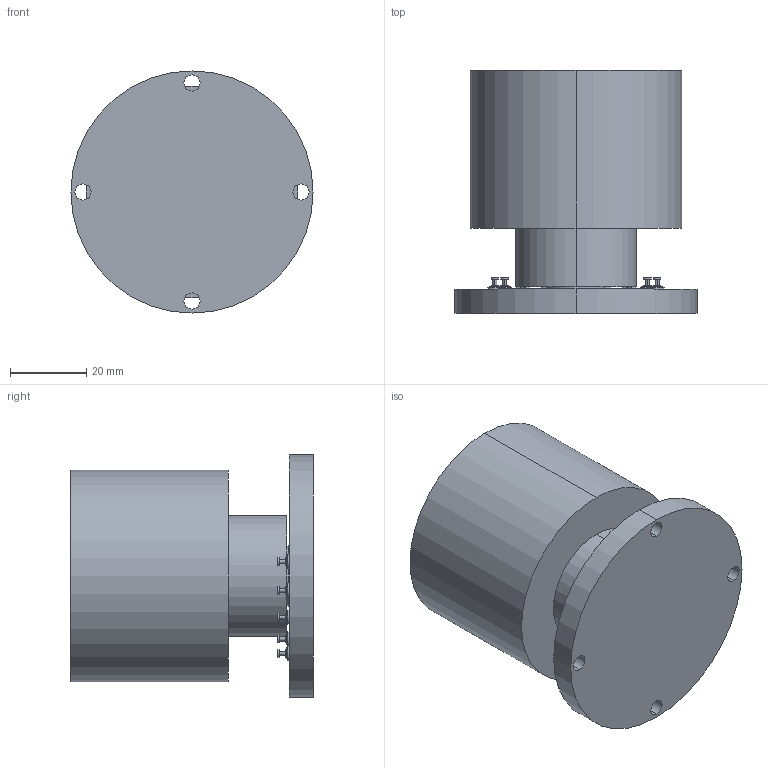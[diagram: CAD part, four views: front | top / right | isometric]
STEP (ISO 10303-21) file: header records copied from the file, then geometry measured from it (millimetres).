
FILE_DESCRIPTION (( 'STEP AP203' ), '1' );
FILE_NAME ('1007855.STEP', '2017-06-07T20:02:03', ( '' ), ( '' ), 'SwSTEP 2.0', 'SolidWorks 2014', '' );
FILE_SCHEMA (( 'CONFIG_CONTROL_DESIGN' ));
Length unit declared in the file: inch
Products named in the file (1): 1007855
Bounding box: 63.47 x 63.64 x 63.47 mm (x, y, z)
Volume: 124975.4 mm3; surface area: 22203.6 mm2
Topology: 1 solids, 1 shells, 381 faces, 782 edges, 508 vertices
Faces by surface type: cylinder 220, plane 107, cone 52, bspline 2
Entity records: 10555 total; most frequent: DIRECTION 2048, CARTESIAN_POINT 1880, ORIENTED_EDGE 1564, AXIS2_PLACEMENT_3D 888, EDGE_CURVE 782, VERTEX_POINT 508, CIRCLE 508, EDGE_LOOP 494
